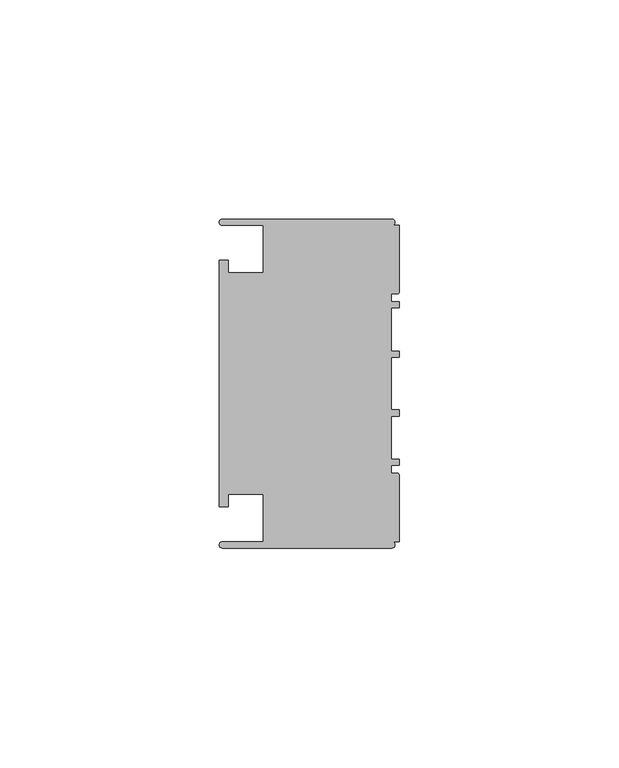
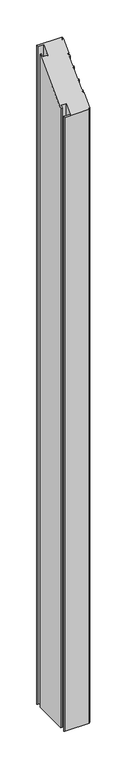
"""IFC4 building model written with IfcOpenShell, lengths in millimetres: member geometry, Прямоугольный импост : 3-AMG-2-Профиль 40Х75 Низ Л."""

from ifc_helpers import new_model, si_unit, frame, origin, place, context, project, spatial, circle_curve, ellipse_curve, source, transform, mapped, element, save
from ifc_brep_helpers import plane_surface, cylinder_surface, advanced_brep


def member_6a86fda6(model_context):
    return source(origin(), model_context, "Body", "AdvancedBrep", [
        advanced_brep(
        [(-1.7, -37.5, -1058.9), (-40.4, -37.5, -1058.9), (-40.4, -36.1, -1058.9), (-31.0, -36.1, -1058.9), (-31.0, -25.25, -1058.9), (-39.0, -25.25, -1058.9), (-39.0, -28.1, -1058.9), (-41.1, -28.1, -1058.9), (-41.1, 28.1, -1058.9), (-39.0, 28.1, -1058.9), (-39.0, 25.25, -1058.9), (-31.0, 25.25, -1058.9), (-31.0, 36.1, -1058.9), (-40.4, 36.1, -1058.9), (-40.4, 37.5, -1058.9), (-1.7, 37.5, -1058.9), (-1.7, 36.1, -1058.9), (0.0, 36.1, -1058.9), (0.0, 20.95, -1058.9), (-0.5, 20.45, -1058.9), (-1.8, 20.45, -1058.9), (-1.8, 18.65, -1058.9), (0.0, 18.65, -1058.9), (0.0, 17.25, -1058.9), (-1.8, 17.25, -1058.9), (-1.8, 7.4, -1058.9), (0.0, 7.4, -1058.9), (0.0, 6.0, -1058.9), (-1.8, 6.0, -1058.9), (-1.8, -6.0, -1058.9), (0.0, -6.0, -1058.9), (0.0, -7.4, -1058.9), (-1.8, -7.4, -1058.9), (-1.8, -17.25, -1058.9), (0.0, -17.25, -1058.9), (0.0, -18.65, -1058.9), (-1.8, -18.65, -1058.9), (-1.8, -20.45, -1058.9), (-0.5, -20.45, -1058.9), (0.0, -20.95, -1058.9), (0.0, -36.1, -1058.9), (-1.7, -36.1, -1058.9), (-1.7, -36.1, -36.1), (-1.7, -37.5, -37.5), (0.0, -36.1, -36.1), (0.0, -20.95, -20.95), (-0.5, -20.45, -20.45), (-1.8, -20.45, -20.45), (-1.8, -18.65, -18.65), (0.0, -18.65, -18.65), (0.0, -17.25, -17.25), (-1.8, -17.25, -17.25), (-1.8, -7.4, -7.4), (0.0, -7.4, -7.4), (0.0, -6.0, -6.0), (-1.8, -6.0, -6.0), (-1.8, 6.0, 6.0), (0.0, 6.0, 6.0), (0.0, 7.4, 7.4), (-1.8, 7.4, 7.4), (-1.8, 17.25, 17.25), (0.0, 17.25, 17.25), (0.0, 18.65, 18.65), (-1.8, 18.65, 18.65), (-1.8, 20.45, 20.45), (-0.5, 20.45, 20.45), (0.0, 20.95, 20.95), (0.0, 36.1, 36.1), (-1.7, 36.1, 36.1), (-1.7, 37.5, 37.5), (-40.4, 37.5, 37.5), (-40.4, 36.1, 36.1), (-31.0, 36.1, 36.1), (-31.0, 25.25, 25.25), (-39.0, 25.25, 25.25), (-39.0, 28.1, 28.1), (-41.1, 28.1, 28.1), (-41.1, -28.1, -28.1), (-39.0, -28.1, -28.1), (-39.0, -25.25, -25.25), (-31.0, -25.25, -25.25), (-31.0, -36.1, -36.1), (-40.4, -36.1, -36.1), (-40.4, -37.5, -37.5)],
        [
            (0, 1),
            (1, 2, circle_curve(frame((-40.4, -36.8, -1058.9), z_axis=(0.0, 0.0, -1.0), x_axis=(-1.0, 0.0, 0.0)), 0.7)),
            (2, 3),
            (3, 4),
            (4, 5),
            (5, 6),
            (6, 7),
            (7, 8),
            (8, 9),
            (9, 10),
            (10, 11),
            (11, 12),
            (12, 13),
            (13, 14, circle_curve(frame((-40.4, 36.8, -1058.9), z_axis=(0.0, 0.0, -1.0), x_axis=(-1.0, 0.0, 0.0)), 0.7)),
            (14, 15),
            (15, 16, circle_curve(frame((-1.7, 36.8, -1058.9), z_axis=(0.0, 0.0, -1.0), x_axis=(-1.0, 0.0, 0.0)), 0.7)),
            (16, 17),
            (17, 18),
            (18, 19, circle_curve(frame((-0.5, 20.95, -1058.9), z_axis=(0.0, 0.0, -1.0), x_axis=(0.0, -1.0, 0.0)), 0.5)),
            (19, 20),
            (20, 21),
            (21, 22),
            (22, 23),
            (23, 24),
            (24, 25),
            (25, 26),
            (26, 27),
            (27, 28),
            (28, 29),
            (29, 30),
            (30, 31),
            (31, 32),
            (32, 33),
            (33, 34),
            (34, 35),
            (35, 36),
            (36, 37),
            (37, 38),
            (38, 39, circle_curve(frame((-0.5, -20.95, -1058.9), z_axis=(0.0, 0.0, -1.0), x_axis=(1.0, 0.0, 0.0)), 0.5)),
            (39, 40),
            (40, 41),
            (41, 0, circle_curve(frame((-1.7, -36.8, -1058.9), z_axis=(0.0, 0.0, -1.0), x_axis=(-1.0, 0.0, 0.0)), 0.7)),
            (42, 43, ellipse_curve(frame((-1.7, -36.8, -36.8), z_axis=(0.0, 0.7071067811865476, -0.7071067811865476), x_axis=(0.0, 0.7071067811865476, 0.7071067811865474)), 0.9899495, 0.7)),
            (43, 0),
            (41, 42),
            (44, 42),
            (40, 44),
            (45, 44),
            (39, 45),
            (46, 45, ellipse_curve(frame((-0.5, -20.95, -20.95), z_axis=(0.0, 0.7071067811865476, -0.7071067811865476), x_axis=(0.0, 0.7071067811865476, 0.7071067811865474)), 0.7071068, 0.5)),
            (38, 46),
            (47, 46),
            (37, 47),
            (48, 47),
            (36, 48),
            (49, 48),
            (35, 49),
            (50, 49),
            (34, 50),
            (51, 50),
            (33, 51),
            (52, 51),
            (32, 52),
            (53, 52),
            (31, 53),
            (54, 53),
            (30, 54),
            (55, 54),
            (29, 55),
            (56, 55),
            (28, 56),
            (57, 56),
            (27, 57),
            (58, 57),
            (26, 58),
            (59, 58),
            (25, 59),
            (60, 59),
            (24, 60),
            (61, 60),
            (23, 61),
            (62, 61),
            (22, 62),
            (63, 62),
            (21, 63),
            (64, 63),
            (20, 64),
            (65, 64),
            (19, 65),
            (66, 65, ellipse_curve(frame((-0.5, 20.95, 20.95), z_axis=(0.0, 0.7071067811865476, -0.7071067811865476), x_axis=(0.0, 0.7071067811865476, 0.7071067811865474)), 0.7071068, 0.5)),
            (18, 66),
            (67, 66),
            (17, 67),
            (68, 67),
            (16, 68),
            (69, 68, ellipse_curve(frame((-1.7, 36.8, 36.8), z_axis=(0.0, 0.7071067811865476, -0.7071067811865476), x_axis=(0.0, 0.7071067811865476, 0.7071067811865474)), 0.9899495, 0.7)),
            (15, 69),
            (70, 69),
            (14, 70),
            (71, 70, ellipse_curve(frame((-40.4, 36.8, 36.8), z_axis=(0.0, 0.7071067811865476, -0.7071067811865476), x_axis=(0.0, 0.7071067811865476, 0.7071067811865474)), 0.9899495, 0.7)),
            (13, 71),
            (72, 71),
            (12, 72),
            (73, 72),
            (11, 73),
            (74, 73),
            (10, 74),
            (75, 74),
            (9, 75),
            (76, 75),
            (8, 76),
            (77, 76),
            (7, 77),
            (78, 77),
            (6, 78),
            (79, 78),
            (5, 79),
            (80, 79),
            (4, 80),
            (81, 80),
            (3, 81),
            (82, 81),
            (2, 82),
            (83, 82, ellipse_curve(frame((-40.4, -36.8, -36.8), z_axis=(0.0, 0.7071067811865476, -0.7071067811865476), x_axis=(0.0, 0.7071067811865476, 0.7071067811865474)), 0.9899495, 0.7)),
            (1, 83),
            (43, 83),
        ],
        [
            plane_surface(frame((0.0, -55.1674723, -1058.9), z_axis=(0.0, 0.0, -1.0), x_axis=(-1.0, 0.0, 0.0))),
            cylinder_surface(frame((-1.7, -36.8, 0.0), z_axis=(0.0, 0.0, 1.0), x_axis=(-1.0, 0.0, 0.0)), 0.7),
            plane_surface(frame((-1.7, -36.1, 0.0), z_axis=(0.0, -1.0, 0.0), x_axis=(0.0, 0.0, -1.0))),
            plane_surface(frame((0.0, -36.1, 0.0), z_axis=(1.0, 0.0, 0.0), x_axis=(0.0, 0.0, -1.0))),
            cylinder_surface(frame((-0.5, -20.95, 0.0), z_axis=(0.0, 0.0, 1.0), x_axis=(1.0, 0.0, 0.0)), 0.5),
            plane_surface(frame((-0.5, -20.45, 0.0), z_axis=(0.0, 1.0, 0.0), x_axis=(0.0, 0.0, -1.0))),
            plane_surface(frame((-1.8, -20.45, 0.0), z_axis=(1.0, 0.0, 0.0), x_axis=(0.0, 0.0, -1.0))),
            plane_surface(frame((-1.8, -18.65, 0.0), z_axis=(0.0, -1.0, 0.0), x_axis=(0.0, 0.0, -1.0))),
            plane_surface(frame((0.0, -18.65, 0.0), z_axis=(1.0, 0.0, 0.0), x_axis=(0.0, 0.0, -1.0))),
            plane_surface(frame((0.0, -17.25, 0.0), z_axis=(0.0, 1.0, 0.0), x_axis=(0.0, 0.0, -1.0))),
            plane_surface(frame((-1.8, -17.25, 0.0), z_axis=(1.0, 0.0, 0.0), x_axis=(0.0, 0.0, -1.0))),
            plane_surface(frame((-1.8, -7.4, 0.0), z_axis=(0.0, -1.0, 0.0), x_axis=(0.0, 0.0, -1.0))),
            plane_surface(frame((0.0, -7.4, 0.0), z_axis=(1.0, 0.0, 0.0), x_axis=(0.0, 0.0, -1.0))),
            plane_surface(frame((0.0, -6.0, 0.0), z_axis=(0.0, 1.0, 0.0), x_axis=(0.0, 0.0, -1.0))),
            plane_surface(frame((-1.8, -6.0, 0.0), z_axis=(1.0, 0.0, 0.0), x_axis=(0.0, 0.0, -1.0))),
            plane_surface(frame((-1.8, 6.0, 0.0), z_axis=(0.0, -1.0, 0.0), x_axis=(0.0, 0.0, -1.0))),
            plane_surface(frame((0.0, 6.0, 0.0), z_axis=(1.0, 0.0, 0.0), x_axis=(0.0, 0.0, -1.0))),
            plane_surface(frame((0.0, 7.4, 0.0), z_axis=(0.0, 1.0, 0.0), x_axis=(0.0, 0.0, -1.0))),
            plane_surface(frame((-1.8, 7.4, 0.0), z_axis=(1.0, 0.0, 0.0), x_axis=(0.0, 0.0, -1.0))),
            plane_surface(frame((-1.8, 17.25, 0.0), z_axis=(0.0, -1.0, 0.0), x_axis=(0.0, 0.0, -1.0))),
            plane_surface(frame((0.0, 17.25, 0.0), z_axis=(1.0, 0.0, 0.0), x_axis=(0.0, 0.0, -1.0))),
            plane_surface(frame((0.0, 18.65, 0.0), z_axis=(0.0, 1.0, 0.0), x_axis=(0.0, 0.0, -1.0))),
            plane_surface(frame((-1.8, 18.65, 0.0), z_axis=(1.0, 0.0, 0.0), x_axis=(0.0, 0.0, -1.0))),
            plane_surface(frame((-1.8, 20.45, 0.0), z_axis=(0.0, -1.0, 0.0), x_axis=(0.0, 0.0, -1.0))),
            cylinder_surface(frame((-0.5, 20.95, 0.0), z_axis=(0.0, 0.0, 1.0), x_axis=(0.0, -1.0, 0.0)), 0.5),
            plane_surface(frame((0.0, 20.95, 0.0), z_axis=(1.0, 0.0, 0.0), x_axis=(0.0, 0.0, -1.0))),
            plane_surface(frame((0.0, 36.1, 0.0), z_axis=(0.0, 1.0, 0.0), x_axis=(0.0, 0.0, -1.0))),
            cylinder_surface(frame((-1.7, 36.8, 0.0), z_axis=(0.0, 0.0, 1.0), x_axis=(-1.0, 0.0, 0.0)), 0.7),
            plane_surface(frame((-1.7, 37.5, 0.0), z_axis=(0.0, 1.0, 0.0), x_axis=(0.0, 0.0, -1.0))),
            cylinder_surface(frame((-40.4, 36.8, 0.0), z_axis=(0.0, 0.0, 1.0), x_axis=(-1.0, 0.0, 0.0)), 0.7),
            plane_surface(frame((-40.4, 36.1, 0.0), z_axis=(0.0, -1.0, 0.0), x_axis=(0.0, 0.0, -1.0))),
            plane_surface(frame((-31.0, 36.1, 0.0), z_axis=(-1.0, 0.0, 0.0), x_axis=(0.0, 0.0, -1.0))),
            plane_surface(frame((-31.0, 25.25, 0.0), z_axis=(0.0, 1.0, 0.0), x_axis=(0.0, 0.0, -1.0))),
            plane_surface(frame((-39.0, 25.25, 0.0), z_axis=(1.0, 0.0, 0.0), x_axis=(0.0, 0.0, -1.0))),
            plane_surface(frame((-39.0, 28.1, 0.0), z_axis=(0.0, 1.0, 0.0), x_axis=(0.0, 0.0, -1.0))),
            plane_surface(frame((-41.1, 28.1, 0.0), z_axis=(-1.0, 0.0, 0.0), x_axis=(0.0, 0.0, -1.0))),
            plane_surface(frame((-41.1, -28.1, 0.0), z_axis=(0.0, -1.0, 0.0), x_axis=(0.0, 0.0, -1.0))),
            plane_surface(frame((-39.0, -28.1, 0.0), z_axis=(1.0, 0.0, 0.0), x_axis=(0.0, 0.0, -1.0))),
            plane_surface(frame((-39.0, -25.25, 0.0), z_axis=(0.0, -1.0, 0.0), x_axis=(0.0, 0.0, -1.0))),
            plane_surface(frame((-31.0, -25.25, 0.0), z_axis=(-1.0, 0.0, 0.0), x_axis=(0.0, 0.0, -1.0))),
            plane_surface(frame((-31.0, -36.1, 0.0), z_axis=(0.0, 1.0, 0.0), x_axis=(0.0, 0.0, -1.0))),
            cylinder_surface(frame((-40.4, -36.8, 0.0), z_axis=(0.0, 0.0, 1.0), x_axis=(-1.0, 0.0, 0.0)), 0.7),
            plane_surface(frame((-40.4, -37.5, 0.0), z_axis=(0.0, -1.0, 0.0), x_axis=(0.0, 0.0, -1.0))),
            plane_surface(frame((304.8, 0.0, 0.0), z_axis=(0.0, -0.7071067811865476, 0.7071067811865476), x_axis=(0.0, -0.7071067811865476, -0.7071067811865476))),
        ],
        [
            (0, [[1, 2, 3, 4, 5, 6, 7, 8, 9, 10, 11, 12, 13, 14, 15, 16, 17, 18, 19, 20, 21, 22, 23, 24, 25, 26, 27, 28, 29, 30, 31, 32, 33, 34, 35, 36, 37, 38, 39, 40, 41, 42]]),
            (1, [[43, 44, -42, 45]]),
            (2, [[46, -45, -41, 47]]),
            (3, [[48, -47, -40, 49]]),
            (4, [[50, -49, -39, 51]]),
            (5, [[52, -51, -38, 53]]),
            (6, [[54, -53, -37, 55]]),
            (7, [[56, -55, -36, 57]]),
            (8, [[58, -57, -35, 59]]),
            (9, [[60, -59, -34, 61]]),
            (10, [[62, -61, -33, 63]]),
            (11, [[64, -63, -32, 65]]),
            (12, [[66, -65, -31, 67]]),
            (13, [[68, -67, -30, 69]]),
            (14, [[70, -69, -29, 71]]),
            (15, [[72, -71, -28, 73]]),
            (16, [[74, -73, -27, 75]]),
            (17, [[76, -75, -26, 77]]),
            (18, [[78, -77, -25, 79]]),
            (19, [[80, -79, -24, 81]]),
            (20, [[82, -81, -23, 83]]),
            (21, [[84, -83, -22, 85]]),
            (22, [[86, -85, -21, 87]]),
            (23, [[88, -87, -20, 89]]),
            (24, [[90, -89, -19, 91]]),
            (25, [[92, -91, -18, 93]]),
            (26, [[94, -93, -17, 95]]),
            (27, [[96, -95, -16, 97]]),
            (28, [[98, -97, -15, 99]]),
            (29, [[100, -99, -14, 101]]),
            (30, [[102, -101, -13, 103]]),
            (31, [[104, -103, -12, 105]]),
            (32, [[106, -105, -11, 107]]),
            (33, [[108, -107, -10, 109]]),
            (34, [[110, -109, -9, 111]]),
            (35, [[112, -111, -8, 113]]),
            (36, [[114, -113, -7, 115]]),
            (37, [[116, -115, -6, 117]]),
            (38, [[118, -117, -5, 119]]),
            (39, [[120, -119, -4, 121]]),
            (40, [[122, -121, -3, 123]]),
            (41, [[124, -123, -2, 125]]),
            (42, [[126, -125, -1, -44]]),
            (43, [[-43, -46, -48, -50, -52, -54, -56, -58, -60, -62, -64, -66, -68, -70, -72, -74, -76, -78, -80, -82, -84, -86, -88, -90, -92, -94, -96, -98, -100, -102, -104, -106, -108, -110, -112, -114, -116, -118, -120, -122, -124, -126]]),
        ],
    ),
    ])


if __name__ == "__main__":
    model = new_model("IFC4")
    model_context = context("Model", 3, world=origin())
    ifc_project = project(units=[si_unit("LENGTHUNIT", "METRE", prefix="MILLI")], contexts=[model_context])
    site = spatial("IfcSite", under=ifc_project)
    building = spatial("IfcBuilding", under=site)
    placement = place(None, origin())
    member_shape = member_6a86fda6(model_context)
    element("IfcMember", 1, ObjectType="Прямоугольный импост : 3-AMG-2-Профиль 40Х75 Низ Л", at=placement, inside=building, context=model_context, shape_type="MappedRepresentation", body=[
        mapped(member_shape, transform((0.0, 0.0, 0.0), x_axis=(1.0, 0.0, 0.0), y_axis=(0.0, 1.0, 0.0), z_axis=(0.0, 0.0, 1.0))),
    ])
    save(model, "model.ifc")
